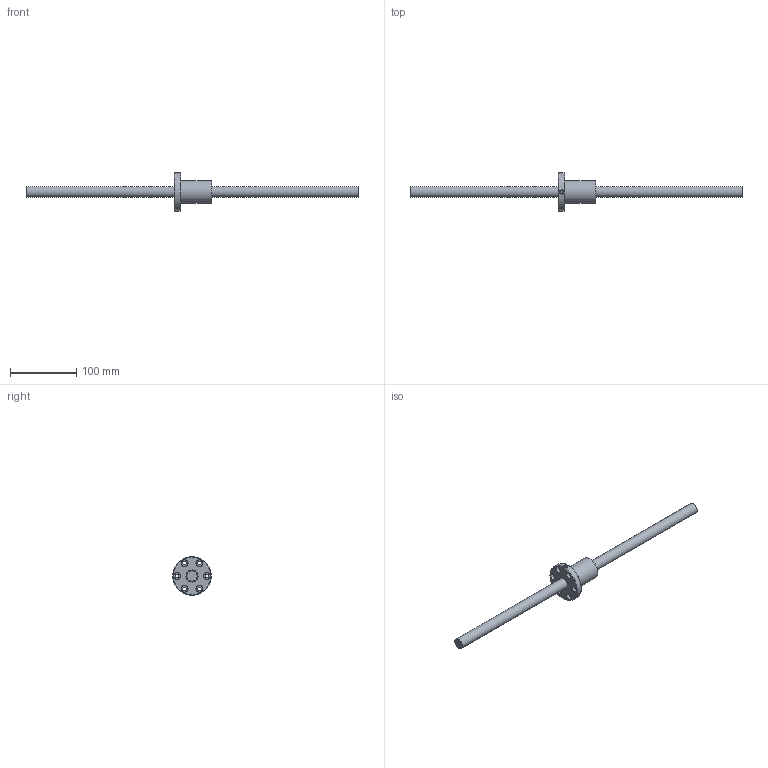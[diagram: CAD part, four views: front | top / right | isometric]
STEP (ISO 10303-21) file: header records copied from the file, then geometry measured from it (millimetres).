
FILE_DESCRIPTION (( 'STEP AP203' ), '1' );
FILE_NAME ('SFNI01610N-3.step', '2024-05-16T01:21:21', ( '' ), ( '' ), 'SwSTEP 2.0', 'SolidWorks 2022', '' );
FILE_SCHEMA (( 'CONFIG_CONTROL_DESIGN' ));
Length unit declared in the file: millimetre
Products named in the file (1): SFNI01610N-3
Bounding box: 500 x 58 x 58 mm (x, y, z)
Volume: 151505 mm3; surface area: 41590.1 mm2
Topology: 2 solids, 2 shells, 57 faces, 131 edges, 84 vertices
Faces by surface type: cylinder 24, cone 13, plane 12, bspline 5, torus 3
Full cylindrical faces by diameter (mm): 4 x1, 5 x6, 5.5 x6, 9.5 x6, 16 x1, 18.1 x1, 34 x1, 58 x1
Entity records: 2970 total; most frequent: CARTESIAN_POINT 1971, DIRECTION 196, ORIENTED_EDGE 126, EDGE_LOOP 108, AXIS2_PLACEMENT_3D 96, FACE_OUTER_BOUND 72, EDGE_CURVE 63, VERTEX_POINT 59
